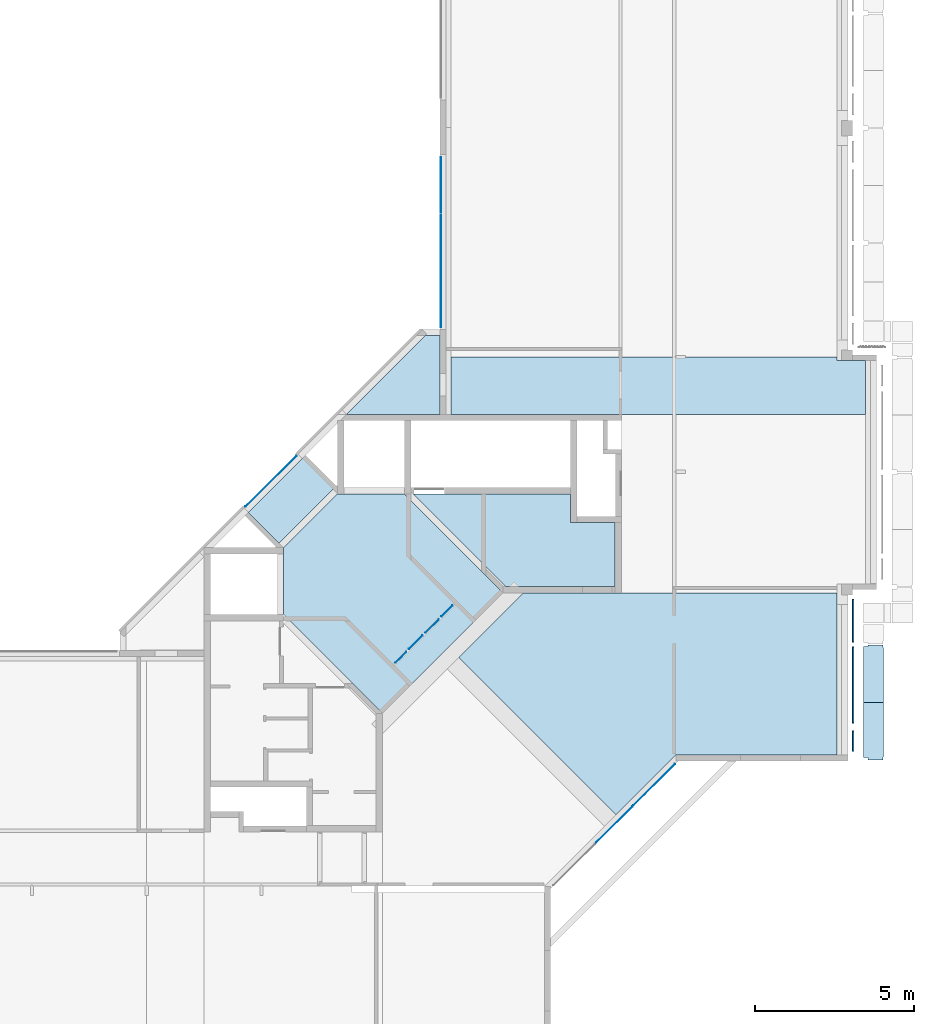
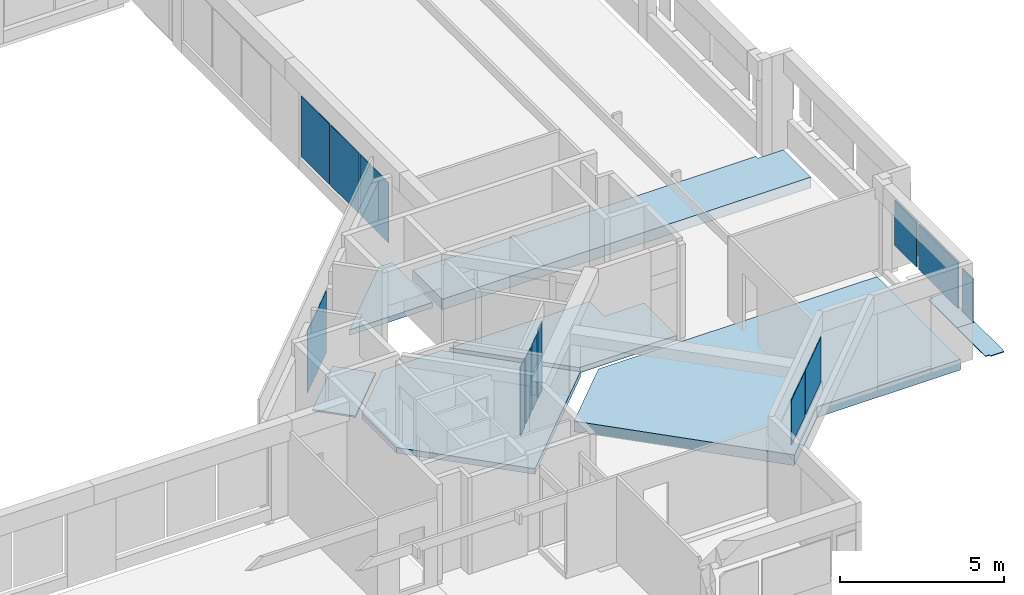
# One storey, part 6 of 26: 13 plates, 8 slabs.
"""IFC4X3_ADD2 building model written with IfcOpenShell, lengths in millimetres."""

from ifc_helpers import new_model, si_unit, direction, frame, frame_2d, origin_with_axes, origin_2d_with_axis, place, context, subcontext, project, spatial, polyline, rectangle, outline, extrude, source, transform, mapped, material, type_object, element, save


model = new_model("IFC4X3_ADD2")

# Units and contexts
model_context = context("Model", 3, precision=1e-05, world=origin_with_axes(), true_north=direction((0.0, 1.0)))
body_context = subcontext(model_context, "Body", "Model", "MODEL_VIEW")
ifc_project = project(units=[si_unit("LENGTHUNIT", "METRE", prefix="MILLI"), si_unit("AREAUNIT", "SQUARE_METRE"), si_unit("VOLUMEUNIT", "CUBIC_METRE"), si_unit("PLANEANGLEUNIT", "RADIAN"), si_unit("TIMEUNIT", "SECOND"), si_unit("MASSUNIT", "GRAM")], contexts=[model_context])

# Site, building, storey
site_placement = place(None, origin_with_axes())
site = spatial("IfcSite", under=ifc_project, at=site_placement, Name="Site", CompositionType="ELEMENT")
building_placement = place(site_placement, origin_with_axes())
building = spatial("IfcBuilding", under=site, at=building_placement, Name="IFC Building Story")
storey_placement = place(building_placement, frame((0.0, 0.0, 7200.0), z_axis=(0.0, 0.0, 1.0), x_axis=(1.0, 0.0, 0.0)))
storey = spatial("IfcBuildingStorey", under=building, at=storey_placement, Name="020", Elevation=7200.0)

# Slabs
ifc_material_1 = material(Name="BB_Beton_Bestaand")
slab_type_1 = type_object("IfcSlabType", Name="BB_Beton_Bestaand 200", PredefinedType="FLOOR", material=ifc_material_1)
slab_1_placement = place(storey_placement, frame((-13532.15728752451, 14700.0, -280.0), z_axis=(0.0, 0.0, 1.0), x_axis=(1.0, 0.0, 0.0)))
element("IfcSlab", 1, at=slab_1_placement, inside=storey, type_object=slab_type_1, Name="Floor:BB_XX_Vloer uit beton, 200 mm", ObjectType="Floor:BB_XX_Vloer uit beton, 200 mm", PredefinedType="FLOOR", context=body_context, shape_type="SweptSolid", body=[
    extrude(outline(polyline([(694.0524291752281, 366.6666666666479), (2094.052429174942, 366.6666666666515), (2094.052429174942, -1633.333333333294), (-1338.104858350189, -1633.333333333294), (-4238.104858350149, 1266.666666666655), (694.0524291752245, 1266.666666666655), (694.0524291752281, 366.6666666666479)])), frame((4238.104858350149, 1633.333333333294, 0.0), z_axis=(0.0, 0.0, 1.0), x_axis=(1.0, 0.0, 0.0)), (0.0, 0.0, 1.0), 200.0),
])
slab_2_placement = place(storey_placement, frame((-12932.78808117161, 22802.78401528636, -400.0), z_axis=(0.0, 0.0, 1.0), x_axis=(-0.7071067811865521, -0.707106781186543, 0.0)))
element("IfcSlab", 2, at=slab_2_placement, inside=storey, type_object=slab_type_1, Name="Floor:BB_XX_Vloer uit beton, 200 mm", ObjectType="Floor:BB_XX_Vloer uit beton, 200 mm", PredefinedType="FLOOR", context=body_context, shape_type="SweptSolid", body=[
    extrude(outline(polyline([(267.6158642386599, 1475.402351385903), (2346.911459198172, -603.8932435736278), (-1139.124972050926, -603.8932435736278), (-1475.402351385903, -267.6158642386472), (267.6158642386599, 1475.402351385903)])), frame((1475.402351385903, 603.8932435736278, 0.0), z_axis=(0.0, 0.0, 1.0), x_axis=(1.0, 0.0, 0.0)), (0.0, 0.0, 1.0), 200.0),
])
slab_type_2 = type_object("IfcSlabType", Name="BB_Beton_Bestaand 400", PredefinedType="FLOOR", material=ifc_material_1)
slab_3_placement = place(storey_placement, frame((-12112.97412328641, 7536.12698372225, -600.0), z_axis=(0.0, 0.0, 1.0), x_axis=(1.0, 0.0, 0.0)))
element("IfcSlab", 3, at=slab_3_placement, inside=storey, type_object=slab_type_2, Name="Floor:BB_XX_Vloer welfsels, 400 mm", ObjectType="Floor:BB_XX_Vloer welfsels, 400 mm", PredefinedType="FLOOR", context=body_context, shape_type="SweptSolid", body=[
    extrude(outline(polyline([(-6251.731855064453, 1161.085097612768), (-4216.963047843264, 3194.557583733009), (5616.242268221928, 3194.557583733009), (5616.242268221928, -1890.442416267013), (557.5416913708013, -1890.442416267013), (-1321.331324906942, -3769.315432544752), (-6251.731855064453, 1161.085097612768)])), frame((6251.731855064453, 3769.315432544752, 0.0), z_axis=(0.0, 0.0, 1.0), x_axis=(1.0, 0.0, 0.0)), (0.0, 0.0, 1.0), 400.0),
])
slab_4_placement = place(storey_placement, frame((-12355.00000000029, 20099.99999999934, -600.0), z_axis=(0.0, 0.0, 1.0), x_axis=(1.0, 0.0, 0.0)))
element("IfcSlab", 4, at=slab_4_placement, inside=storey, type_object=slab_type_2, Name="Floor:BB_XX_Vloer welfsels, 400 mm", ObjectType="Floor:BB_XX_Vloer welfsels, 400 mm", PredefinedType="FLOOR", context=body_context, shape_type="SweptSolid", body=[
    extrude(outline(polyline([(4636.666666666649, 523.3333333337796), (4636.666666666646, -1161.666666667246), (-8373.333333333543, -1161.666666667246), (-8373.33333333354, 638.3333333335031), (3736.6666666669, 638.3333333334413), (3736.666666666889, 523.3333333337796), (4636.666666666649, 523.3333333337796)])), frame((8373.33333333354, 1161.666666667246, 0.0), z_axis=(0.0, 0.0, 1.0), x_axis=(1.0, 0.0, 0.0)), (0.0, 0.0, 1.0), 400.0),
])

# Plates
ifc_material_2 = material(Name="BB_Glas")
shared_shape_1 = source(origin_with_axes(), body_context, "Body", "SweptSolid", [
    extrude(rectangle(XDim=2256.0, YDim=1736.000000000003, at=frame_2d((0.0, 0.0), x_axis=(0.0, 1.0))), frame((0.0, 0.0, -17.0), z_axis=(0.0, 0.0, 1.0), x_axis=(1.0, 0.0, 0.0)), (0.0, 0.0, 1.0), 17.0),
])
for number, where, z_axis, x_axis in (
    (5, (-12671.5040658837, 25500.0, 1475.0), (-1.0, 0.0, 0.0), (0.0, 1.0, 0.0)),
    (6, (-12671.5040658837, 23700.0, 1475.0), (-1.0, 0.0, 0.0), (0.0, 1.0, 0.0)),
    (7, (-12671.5040658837, 27300.0, 1475.0), (-1.0, 0.0, 0.0), (0.0, 1.0, 0.0)),
):
    element("IfcPlate", number, at=place(storey_placement, frame(where, z_axis=z_axis, x_axis=x_axis)), inside=storey, material=ifc_material_2, Name="BB_10.10_Binnenbeglazing, rechthoekig_GMO:10.10.41#02_Enkelvoudige beglazing, 2B2, EI30, 40dB", ObjectType="BB_10.10_Binnenbeglazing, rechthoekig_GMO:10.10.41#02_Enkelvoudige beglazing, 2B2, EI30, 40dB", PredefinedType="USERDEFINED", context=body_context, shape_type="MappedRepresentation", body=[
        mapped(shared_shape_1, transform((0.0, 0.0, 0.0))),
    ])
shared_shape_2 = source(origin_with_axes(), body_context, "Body", "SweptSolid", [
    extrude(rectangle(XDim=2452.0, YDim=592.500000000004, at=frame_2d((0.0, 0.0), x_axis=(0.0, 1.0))), frame((0.0, 0.0, -17.0), z_axis=(0.0, 0.0, 1.0), x_axis=(1.0, 0.0, 0.0)), (0.0, 0.0, 1.0), 17.0),
])
for number, where, z_axis, x_axis in (
    (8, (-12950.9289310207, 13462.5206872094, 1310.0), (-0.7071067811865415, 0.7071067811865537, 0.0), (-0.7071067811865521, -0.707106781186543, 0.0)),
    (9, (-13462.5206872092, 12950.928931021, 1310.0), (-0.7071067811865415, 0.7071067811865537, 0.0), (-0.7071067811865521, -0.707106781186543, 0.0)),
):
    element("IfcPlate", number, at=place(storey_placement, frame(where, z_axis=z_axis, x_axis=x_axis)), inside=storey, material=ifc_material_2, Name="BB_10.10_Binnenbeglazing, rechthoekig_GMO:10.10.41#01_Enkelvoudige beglazing, 2B2, EI30", ObjectType="BB_10.10_Binnenbeglazing, rechthoekig_GMO:10.10.41#01_Enkelvoudige beglazing, 2B2, EI30", PredefinedType="USERDEFINED", context=body_context, shape_type="MappedRepresentation", body=[
        mapped(shared_shape_2, transform((0.0, 0.0, 0.0))),
    ])
shared_shape_3 = source(origin_with_axes(), body_context, "Body", "SweptSolid", [
    extrude(rectangle(XDim=2554.0, YDim=481.000000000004, at=frame_2d((0.0, 0.0), x_axis=(0.0, 1.0))), frame((0.0, 0.0, -17.0), z_axis=(0.0, 0.0, 1.0), x_axis=(1.0, 0.0, 0.0)), (0.0, 0.0, 1.0), 17.0),
])
for number, where, z_axis, x_axis in (
    (10, (-12480.879698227, 13932.5699200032, 1335.0), (-0.7071067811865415, 0.7071067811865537, 0.0), (-0.7071067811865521, -0.707106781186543, 0.0)),
    (11, (-13932.569920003, 12480.8796982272, 1335.0), (-0.7071067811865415, 0.7071067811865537, 0.0), (-0.7071067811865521, -0.707106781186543, 0.0)),
):
    element("IfcPlate", number, at=place(storey_placement, frame(where, z_axis=z_axis, x_axis=x_axis)), inside=storey, material=ifc_material_2, Name="BB_10.10_Binnenbeglazing, rechthoekig_GMO:10.10.41#01_Enkelvoudige beglazing, 2B2, EI30", ObjectType="BB_10.10_Binnenbeglazing, rechthoekig_GMO:10.10.41#01_Enkelvoudige beglazing, 2B2, EI30", PredefinedType="USERDEFINED", context=body_context, shape_type="MappedRepresentation", body=[
        mapped(shared_shape_3, transform((0.0, 0.0, 0.0))),
    ])
shared_shape_4 = source(origin_with_axes(), body_context, "Body", "SweptSolid", [
    extrude(rectangle(XDim=2314.0, YDim=2254.0, at=frame_2d((0.0, 0.0), x_axis=(0.0, 1.0))), frame((0.0, 0.0, -17.0), z_axis=(0.0, 0.0, 1.0), x_axis=(1.0, 0.0, 0.0)), (0.0, 0.0, 1.0), 17.0),
])
plate_1_placement = place(storey_placement, frame((-18004.4454924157, 18004.4454924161, 1455.0), z_axis=(-0.7071067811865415, 0.7071067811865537, 0.0), x_axis=(-0.7071067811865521, -0.707106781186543, 0.0)))
element("IfcPlate", 12, at=plate_1_placement, inside=storey, material=ifc_material_2, Name="BB_10.10_Binnenbeglazing, rechthoekig_GMO:10.10.42#01_Enkelvoudige beglazing, 2B2, EI60", ObjectType="BB_10.10_Binnenbeglazing, rechthoekig_GMO:10.10.42#01_Enkelvoudige beglazing, 2B2, EI60", PredefinedType="USERDEFINED", context=body_context, shape_type="MappedRepresentation", body=[
    mapped(shared_shape_4, transform((0.0, 0.0, 0.0))),
])
shared_shape_5 = source(origin_with_axes(), body_context, "Body", "SweptSolid", [
    extrude(rectangle(XDim=1602.000000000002, YDim=642.000000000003, at=frame_2d((0.0, 0.0), x_axis=(0.0, 1.0))), frame((0.0, 0.0, -44.0), z_axis=(0.0, 0.0, 1.0), x_axis=(1.0, 0.0, 0.0)), (0.0, 0.0, 1.0), 44.0),
])
plate_2_placement = place(storey_placement, frame((287.500000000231, 9849.00003623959, 1765.0), z_axis=(1.0, 0.0, 0.0), x_axis=(0.0, 1.0, 0.0)))
element("IfcPlate", 13, at=plate_2_placement, inside=storey, material=ifc_material_2, Name="BB_07.06_Buitenbeglazing, rechthoekig_GMO:07.06.72#01_Drievoudige beglazing, 44 mm, A/A*/A", ObjectType="BB_07.06_Buitenbeglazing, rechthoekig_GMO:07.06.72#01_Drievoudige beglazing, 44 mm, A/A*/A", PredefinedType="USERDEFINED", context=body_context, shape_type="MappedRepresentation", body=[
    mapped(shared_shape_5, transform((0.0, 0.0, 0.0))),
])
shared_shape_6 = source(origin_with_axes(), body_context, "Body", "SweptSolid", [
    extrude(rectangle(XDim=2402.0, YDim=1680.000000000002, at=origin_2d_with_axis()), frame((0.0, 0.0, -44.0), z_axis=(0.0, 0.0, 1.0), x_axis=(1.0, 0.0, 0.0)), (0.0, 0.0, 1.0), 44.0),
])
plate_3_placement = place(storey_placement, frame((287.500000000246, 11609.0000362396, 1765.0), z_axis=(1.0, 0.0, 0.0), x_axis=(0.0, 1.0, 0.0)))
element("IfcPlate", 14, at=plate_3_placement, inside=storey, material=ifc_material_2, Name="BB_07.06_Buitenbeglazing, rechthoekig_GMO:07.06.72#01_Drievoudige beglazing, 44 mm, A/A*/A", ObjectType="BB_07.06_Buitenbeglazing, rechthoekig_GMO:07.06.72#01_Drievoudige beglazing, 44 mm, A/A*/A", PredefinedType="USERDEFINED", context=body_context, shape_type="MappedRepresentation", body=[
    mapped(shared_shape_6, transform((0.0, 0.0, 0.0))),
])
shared_shape_7 = source(origin_with_axes(), body_context, "Body", "SweptSolid", [
    extrude(rectangle(XDim=1680.000000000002, YDim=1340.000000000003, at=frame_2d((0.0, 0.0), x_axis=(0.0, 1.0))), frame((0.0, 0.0, -44.0), z_axis=(0.0, 0.0, 1.0), x_axis=(1.0, 0.0, 0.0)), (0.0, 0.0, 1.0), 44.0),
])
plate_4_placement = place(storey_placement, frame((287.500000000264, 13620.0000362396, 1765.0), z_axis=(1.0, 0.0, 0.0), x_axis=(0.0, 1.0, 0.0)))
element("IfcPlate", 15, at=plate_4_placement, inside=storey, material=ifc_material_2, Name="BB_07.06_Buitenbeglazing, rechthoekig_GMO:07.06.72#01_Drievoudige beglazing, 44 mm, A/A*/A", ObjectType="BB_07.06_Buitenbeglazing, rechthoekig_GMO:07.06.72#01_Drievoudige beglazing, 44 mm, A/A*/A", PredefinedType="USERDEFINED", context=body_context, shape_type="MappedRepresentation", body=[
    mapped(shared_shape_7, transform((0.0, 0.0, 0.0))),
])
shared_shape_8 = source(origin_with_axes(), body_context, "Body", "SweptSolid", [
    extrude(rectangle(XDim=1836.000000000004, YDim=1669.000000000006, at=origin_2d_with_axis()), frame((0.0, 0.0, -17.0), z_axis=(0.0, 0.0, 1.0), x_axis=(1.0, 0.0, 0.0)), (0.0, 0.0, 1.0), 17.0),
])
plate_5_placement = place(storey_placement, frame((-5968.47124983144, 8477.28610948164, 1762.5), z_axis=(0.7071067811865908, -0.7071067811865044, 0.0), x_axis=(0.7071067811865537, 0.7071067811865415, 0.0)))
element("IfcPlate", 16, at=plate_5_placement, inside=storey, material=ifc_material_2, Name="BB_10.10_Binnenbeglazing, rechthoekig_GMO:10.10.42#01_Enkelvoudige beglazing, 2B2, EI60", ObjectType="BB_10.10_Binnenbeglazing, rechthoekig_GMO:10.10.42#01_Enkelvoudige beglazing, 2B2, EI60", PredefinedType="USERDEFINED", context=body_context, shape_type="MappedRepresentation", body=[
    mapped(shared_shape_8, transform((0.0, 0.0, 0.0))),
])
shared_shape_9 = source(origin_with_axes(), body_context, "Body", "SweptSolid", [
    extrude(rectangle(XDim=1669.000000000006, YDim=1608.000000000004, at=frame_2d((0.0, 0.0), x_axis=(0.0, 1.0))), frame((0.0, 0.0, -17.0), z_axis=(0.0, 0.0, 1.0), x_axis=(1.0, 0.0, 0.0)), (0.0, 0.0, 1.0), 17.0),
])
plate_6_placement = place(storey_placement, frame((-7222.87867965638, 7222.87867965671, 1762.500000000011), z_axis=(0.7071067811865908, -0.7071067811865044, 0.0), x_axis=(0.7071067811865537, 0.7071067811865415, 0.0)))
element("IfcPlate", 17, at=plate_6_placement, inside=storey, material=ifc_material_2, Name="BB_10.10_Binnenbeglazing, rechthoekig_GMO:10.10.42#01_Enkelvoudige beglazing, 2B2, EI60", ObjectType="BB_10.10_Binnenbeglazing, rechthoekig_GMO:10.10.42#01_Enkelvoudige beglazing, 2B2, EI60", PredefinedType="USERDEFINED", context=body_context, shape_type="MappedRepresentation", body=[
    mapped(shared_shape_9, transform((0.0, 0.0, 0.0))),
])

# Slabs
slab_type_3 = type_object("IfcSlabType", Name="BB_Beton_Bestaand 210", PredefinedType="FLOOR", material=ifc_material_1)
slab_5_placement = place(storey_placement, frame((-18649.99999999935, 14864.99999999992, -290.0), z_axis=(0.0, 0.0, 1.0), x_axis=(0.7071067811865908, -0.7071067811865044, 0.0)))
element("IfcSlab", 18, at=slab_5_placement, inside=storey, type_object=slab_type_3, Name="Floor:BB_XX_Vloer welfsels, 210 mm", ObjectType="Floor:BB_XX_Vloer welfsels, 210 mm", PredefinedType="FLOOR", context=body_context, shape_type="SweptSolid", body=[
    extrude(outline(polyline([(3417.682775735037, 2676.399166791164), (3417.682775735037, -2676.399166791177), (-966.3792676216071, -2676.399166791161), (-2451.303508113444, -1191.474926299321), (-2451.303508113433, 1191.474926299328), (-966.379267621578, 2676.399166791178), (3417.682775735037, 2676.399166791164)])), frame((2451.303508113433, 2676.399166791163, 1.818989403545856e-12), z_axis=(0.0, 0.0, 1.0), x_axis=(1.0, 0.0, 0.0)), (0.0, 0.0, 1.0), 210.0),
])
ifc_material_3 = material(Name="Steel, Galvanized - looprooster")
slab_type_4 = type_object("IfcSlabType", Name="Steel, Galvanized - looprooster 30", PredefinedType="FLOOR", material=ifc_material_3)
slab_6_placement = place(storey_placement, frame((589.998741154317, 12865.49996376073, -350.0), z_axis=(0.0, 0.0, 1.0), x_axis=(0.0, -1.0, 0.0)))
element("IfcSlab", 19, at=slab_6_placement, inside=storey, type_object=slab_type_4, Name="Floor:GVH - Looprooster 30 mm", ObjectType="Floor:GVH - Looprooster 30 mm", PredefinedType="FLOOR", context=body_context, shape_type="SweptSolid", body=[
    extrude(outline(polyline([(-398.374455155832, 282.4992180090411), (1317.123401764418, 282.4992180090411), (1317.123401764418, -347.5004386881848), (-433.3744914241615, -347.5004386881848), (-433.3744914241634, -202.4983406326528), (-485.3744551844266, -202.4983406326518), (-485.3744551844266, 267.4995613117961), (-398.374455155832, 267.4995613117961), (-398.374455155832, 282.4992180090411)])), frame((485.3744551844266, 347.5004386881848, 0.0), z_axis=(0.0, 0.0, 1.0), x_axis=(1.0, 0.0, 0.0)), (0.0, 0.0, 1.0), 29.99999999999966),
])
slab_7_placement = place(storey_placement, frame((589.998741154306, 11061.99810681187, -350.0), z_axis=(0.0, 0.0, 1.0), x_axis=(0.0, -1.0, 0.0)))
element("IfcSlab", 20, at=slab_7_placement, inside=storey, type_object=slab_type_4, Name="Floor:GVH - Looprooster 30 mm", ObjectType="Floor:GVH - Looprooster 30 mm", PredefinedType="FLOOR", context=body_context, shape_type="SweptSolid", body=[
    extrude(outline(polyline([(489.2494642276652, -202.4983406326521), (419.2494642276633, -202.4983406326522), (419.2494642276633, -347.5004386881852), (-1312.748535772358, -347.5004386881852), (-1312.748535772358, 282.4992180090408), (404.2496073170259, 282.4992180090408), (404.2496073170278, 267.4995613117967), (489.2494642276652, 267.4995613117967), (489.2494642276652, -202.4983406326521)])), frame((1312.748535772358, 347.5004386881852, 0.0), z_axis=(0.0, 0.0, 1.0), x_axis=(1.0, 0.0, 0.0)), (0.0, 0.0, 1.0), 29.99999999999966),
])
slab_type_5 = type_object("IfcSlabType", Name="BB_Beton_Bestaand 60", PredefinedType="FLOOR", material=ifc_material_1)
slab_8_placement = place(storey_placement, frame((-17017.26073923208, 18718.98569550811, -280.0), z_axis=(0.0, 0.0, 1.0), x_axis=(-0.7069491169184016, -0.7072644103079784, 0.0)))
element("IfcSlab", 21, at=slab_8_placement, inside=storey, type_object=slab_type_5, Name="Floor:BB_XX_Vloer uit beton, 60 mm", ObjectType="Floor:BB_XX_Vloer uit beton, 60 mm", PredefinedType="FLOOR", context=body_context, shape_type="SweptSolid", body=[
    extrude(outline(polyline([(1199.753190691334, 682.5937516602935), (1199.514889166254, -682.8031227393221), (-1199.753154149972, -682.3843805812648), (-1199.514925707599, 682.5937516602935), (1199.753190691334, 682.5937516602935)])), frame((1199.753154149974, 682.8031227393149, 0.0), z_axis=(0.0, 0.0, 1.0), x_axis=(1.0, 0.0, 0.0)), (0.0, 0.0, 1.0), 60.0),
])

save(model, "model.ifc")
